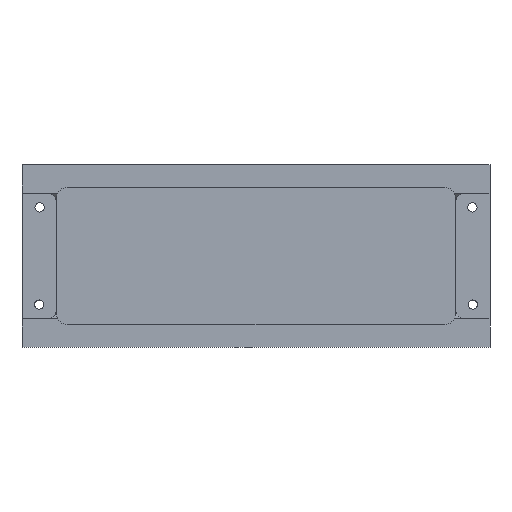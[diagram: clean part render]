
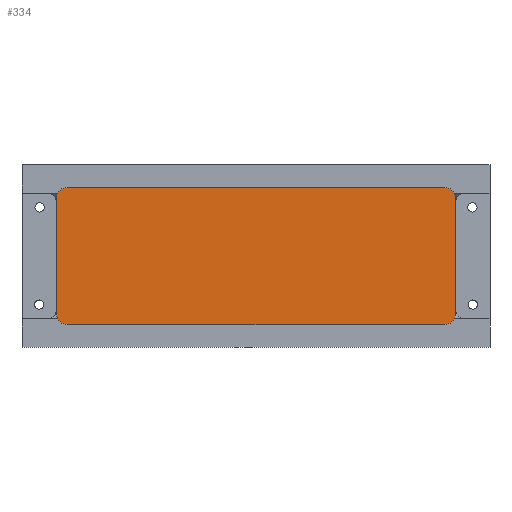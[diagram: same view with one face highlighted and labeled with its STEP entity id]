
A CAD part, front view. The second image highlights one B-rep face of the part: STEP entity #334.
In plain terms, the highlighted planar face has unit normal (0, -1, 0).
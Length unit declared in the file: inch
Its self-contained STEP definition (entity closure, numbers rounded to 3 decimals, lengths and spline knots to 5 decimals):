
#46 = VERTEX_POINT ( 'NONE', #1902 ) ;
#59 = CIRCLE ( 'NONE', #1657, 0.25 ) ;
#121 = DIRECTION ( 'NONE',  ( 0., 0., 1. ) ) ;
#172 = CARTESIAN_POINT ( 'NONE',  ( 4.371, 1.5, 1.5 ) ) ;
#194 = ORIENTED_EDGE ( 'NONE', *, *, #351, .T. ) ;
#260 = CARTESIAN_POINT ( 'NONE',  ( -4.121, 1.5, -1.5 ) ) ;
#301 = DIRECTION ( 'NONE',  ( 0., 0., -1. ) ) ;
#334 = ADVANCED_FACE ( 'NONE', ( #1154 ), #1045, .T. ) ;
#346 = CARTESIAN_POINT ( 'NONE',  ( 4.121, 1.5, 1.5 ) ) ;
#351 = EDGE_CURVE ( 'NONE', #2049, #1081, #554, .T. ) ;
#356 = ORIENTED_EDGE ( 'NONE', *, *, #1848, .T. ) ;
#363 = EDGE_CURVE ( 'NONE', #1478, #1525, #2079, .T. ) ;
#374 = VECTOR ( 'NONE', #758, 39.37008 ) ;
#516 = VECTOR ( 'NONE', #1439, 39.37008 ) ;
#535 = ORIENTED_EDGE ( 'NONE', *, *, #1277, .T. ) ;
#554 = CIRCLE ( 'NONE', #1769, 0.25 ) ;
#564 = CARTESIAN_POINT ( 'NONE',  ( -4.121, 1.5, -1.25 ) ) ;
#621 = DIRECTION ( 'NONE',  ( 0., 0., -1. ) ) ;
#664 = CARTESIAN_POINT ( 'NONE',  ( -4.371, 1.5, 1.5 ) ) ;
#740 = ORIENTED_EDGE ( 'NONE', *, *, #1058, .T. ) ;
#745 = CARTESIAN_POINT ( 'NONE',  ( 4.121, 1.5, -1.25 ) ) ;
#758 = DIRECTION ( 'NONE',  ( 1., 0., 0. ) ) ;
#796 = DIRECTION ( 'NONE',  ( 0., -1., 0. ) ) ;
#832 = ORIENTED_EDGE ( 'NONE', *, *, #1770, .T. ) ;
#839 = CARTESIAN_POINT ( 'NONE',  ( -4.371, 1.5, -1.5 ) ) ;
#875 = VERTEX_POINT ( 'NONE', #346 ) ;
#907 = DIRECTION ( 'NONE',  ( 0., 0., -1. ) ) ;
#924 = EDGE_LOOP ( 'NONE', ( #740, #194, #1827, #1773, #535, #1715, #356, #832 ) ) ;
#978 = VERTEX_POINT ( 'NONE', #260 ) ;
#1014 = DIRECTION ( 'NONE',  ( 0., -1., 0. ) ) ;
#1032 = LINE ( 'NONE', #664, #516 ) ;
#1035 = LINE ( 'NONE', #1589, #1874 ) ;
#1045 = PLANE ( 'NONE',  #1679 ) ;
#1058 = EDGE_CURVE ( 'NONE', #978, #2049, #1539, .T. ) ;
#1069 = AXIS2_PLACEMENT_3D ( 'NONE', #1662, #1310, #1994 ) ;
#1081 = VERTEX_POINT ( 'NONE', #1098 ) ;
#1098 = CARTESIAN_POINT ( 'NONE',  ( 4.371, 1.5, -1.25 ) ) ;
#1100 = CARTESIAN_POINT ( 'NONE',  ( 4.121, 1.5, -1.5 ) ) ;
#1141 = VERTEX_POINT ( 'NONE', #1296 ) ;
#1146 = EDGE_CURVE ( 'NONE', #46, #875, #1466, .T. ) ;
#1154 = FACE_OUTER_BOUND ( 'NONE', #924, .T. ) ;
#1230 = CARTESIAN_POINT ( 'NONE',  ( -4.121, 1.5, 1.25 ) ) ;
#1264 = DIRECTION ( 'NONE',  ( 0., -1., 0. ) ) ;
#1277 = EDGE_CURVE ( 'NONE', #875, #1478, #1032, .T. ) ;
#1296 = CARTESIAN_POINT ( 'NONE',  ( -4.371, 1.5, -1.25 ) ) ;
#1310 = DIRECTION ( 'NONE',  ( 0., -1., 0. ) ) ;
#1405 = DIRECTION ( 'NONE',  ( 0., 0., -1. ) ) ;
#1439 = DIRECTION ( 'NONE',  ( -1., 0., 0. ) ) ;
#1466 = CIRCLE ( 'NONE', #1069, 0.25 ) ;
#1478 = VERTEX_POINT ( 'NONE', #1906 ) ;
#1525 = VERTEX_POINT ( 'NONE', #1779 ) ;
#1539 = LINE ( 'NONE', #839, #374 ) ;
#1579 = DIRECTION ( 'NONE',  ( 0., 0., -1. ) ) ;
#1584 = AXIS2_PLACEMENT_3D ( 'NONE', #1230, #1264, #1405 ) ;
#1589 = CARTESIAN_POINT ( 'NONE',  ( -4.371, 1.5, 1.5 ) ) ;
#1657 = AXIS2_PLACEMENT_3D ( 'NONE', #564, #2019, #907 ) ;
#1662 = CARTESIAN_POINT ( 'NONE',  ( 4.121, 1.5, 1.25 ) ) ;
#1679 = AXIS2_PLACEMENT_3D ( 'NONE', #1970, #1014, #621 ) ;
#1715 = ORIENTED_EDGE ( 'NONE', *, *, #363, .T. ) ;
#1769 = AXIS2_PLACEMENT_3D ( 'NONE', #745, #796, #301 ) ;
#1770 = EDGE_CURVE ( 'NONE', #1141, #978, #59, .T. ) ;
#1773 = ORIENTED_EDGE ( 'NONE', *, *, #1146, .T. ) ;
#1779 = CARTESIAN_POINT ( 'NONE',  ( -4.371, 1.5, 1.25 ) ) ;
#1827 = ORIENTED_EDGE ( 'NONE', *, *, #2116, .T. ) ;
#1839 = VECTOR ( 'NONE', #121, 39.37008 ) ;
#1848 = EDGE_CURVE ( 'NONE', #1525, #1141, #1035, .T. ) ;
#1874 = VECTOR ( 'NONE', #1579, 39.37008 ) ;
#1902 = CARTESIAN_POINT ( 'NONE',  ( 4.371, 1.5, 1.25 ) ) ;
#1906 = CARTESIAN_POINT ( 'NONE',  ( -4.121, 1.5, 1.5 ) ) ;
#1942 = LINE ( 'NONE', #172, #1839 ) ;
#1970 = CARTESIAN_POINT ( 'NONE',  ( 0., 1.5, 0. ) ) ;
#1994 = DIRECTION ( 'NONE',  ( 0., 0., -1. ) ) ;
#2019 = DIRECTION ( 'NONE',  ( 0., -1., 0. ) ) ;
#2049 = VERTEX_POINT ( 'NONE', #1100 ) ;
#2079 = CIRCLE ( 'NONE', #1584, 0.25 ) ;
#2116 = EDGE_CURVE ( 'NONE', #1081, #46, #1942, .T. ) ;
